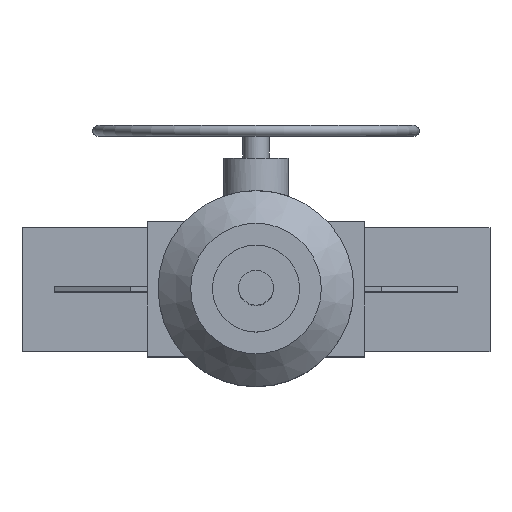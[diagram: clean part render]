
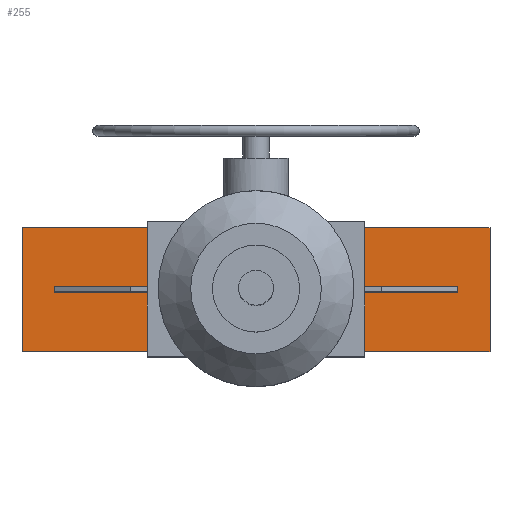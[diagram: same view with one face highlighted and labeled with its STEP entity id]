
A CAD part, top view. The second image highlights one B-rep face of the part: STEP entity #255.
In plain terms, the highlighted planar face has unit normal (0, 0, 1).
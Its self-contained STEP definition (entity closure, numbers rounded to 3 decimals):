
#255=ADVANCED_FACE('',(#1640,#1642),#1644,.T.);
#1640=FACE_BOUND('',#1641,.T.);
#1641=EDGE_LOOP('',(#2786,#2787,#2788,#2789,#2790,#2791,#2792,#2793));
#1642=FACE_BOUND('',#1643,.T.);
#1643=EDGE_LOOP('',(#2794,#2795,#2796,#2797));
#1644=PLANE('',#1645);
#1645=AXIS2_PLACEMENT_3D('',#1646,#1647,#1648);
#1646=CARTESIAN_POINT('',(0.,0.,375.));
#1647=DIRECTION('',(0.,0.,1.));
#1648=DIRECTION('',(1.,0.,0.));
#2786=ORIENTED_EDGE('',*,*,#3446,.F.);
#2787=ORIENTED_EDGE('',*,*,#3451,.T.);
#2788=ORIENTED_EDGE('',*,*,#3455,.T.);
#2789=ORIENTED_EDGE('',*,*,#3437,.T.);
#2790=ORIENTED_EDGE('',*,*,#3443,.F.);
#2791=ORIENTED_EDGE('',*,*,#3441,.T.);
#2792=ORIENTED_EDGE('',*,*,#3456,.T.);
#2793=ORIENTED_EDGE('',*,*,#3447,.T.);
#2794=ORIENTED_EDGE('',*,*,#3457,.F.);
#2795=ORIENTED_EDGE('',*,*,#3458,.F.);
#2796=ORIENTED_EDGE('',*,*,#3459,.F.);
#2797=ORIENTED_EDGE('',*,*,#3460,.F.);
#3437=EDGE_CURVE('',#3824,#3808,#3825,.T.);
#3441=EDGE_CURVE('',#3793,#3830,#3832,.T.);
#3443=EDGE_CURVE('',#3793,#3808,#3834,.T.);
#3446=EDGE_CURVE('',#3812,#3799,#3838,.T.);
#3447=EDGE_CURVE('',#3839,#3799,#3840,.T.);
#3451=EDGE_CURVE('',#3812,#3845,#3847,.T.);
#3455=EDGE_CURVE('',#3845,#3824,#3854,.T.);
#3456=EDGE_CURVE('',#3830,#3839,#3855,.T.);
#3457=EDGE_CURVE('',#3856,#3857,#3858,.T.);
#3458=EDGE_CURVE('',#3859,#3856,#3860,.F.);
#3459=EDGE_CURVE('',#3861,#3859,#3862,.T.);
#3460=EDGE_CURVE('',#3857,#3861,#3863,.T.);
#3793=VERTEX_POINT('',#4455);
#3799=VERTEX_POINT('',#4467);
#3808=VERTEX_POINT('',#4488);
#3812=VERTEX_POINT('',#4496);
#3824=VERTEX_POINT('',#4524);
#3825=LINE('',#4525,#4526);
#3830=VERTEX_POINT('',#4536);
#3832=LINE('',#4540,#4541);
#3834=LINE('',#4546,#4547);
#3838=LINE('',#4557,#4558);
#3839=VERTEX_POINT('',#4560);
#3840=LINE('',#4561,#4562);
#3845=VERTEX_POINT('',#4572);
#3847=LINE('',#4576,#4577);
#3854=LINE('',#4655,#4656);
#3855=LINE('',#4658,#4659);
#3856=VERTEX_POINT('',#4661);
#3857=VERTEX_POINT('',#4662);
#3858=LINE('',#4663,#4664);
#3859=VERTEX_POINT('',#4666);
#3860=LINE('',#4667,#4668);
#3861=VERTEX_POINT('',#4670);
#3862=LINE('',#4671,#4672);
#3863=LINE('',#4674,#4675);
#4455=CARTESIAN_POINT('',(-100.,57.,375.));
#4467=CARTESIAN_POINT('',(-100.,-57.,375.));
#4488=CARTESIAN_POINT('',(100.,57.,375.));
#4496=CARTESIAN_POINT('',(100.,-57.,375.));
#4524=CARTESIAN_POINT('',(215.,57.,375.));
#4525=CARTESIAN_POINT('',(215.,57.,375.));
#4526=VECTOR('',#4527,1.);
#4527=DIRECTION('',(-1.,0.,0.));
#4536=CARTESIAN_POINT('',(-215.,57.,375.));
#4540=CARTESIAN_POINT('',(-100.,57.,375.));
#4541=VECTOR('',#4542,1.);
#4542=DIRECTION('',(-1.,0.,0.));
#4546=CARTESIAN_POINT('',(-100.,57.,375.));
#4547=VECTOR('',#4548,1.);
#4548=DIRECTION('',(1.,0.,0.));
#4557=CARTESIAN_POINT('',(100.,-57.,375.));
#4558=VECTOR('',#4559,1.);
#4559=DIRECTION('',(-1.,0.,0.));
#4560=CARTESIAN_POINT('',(-215.,-57.,375.));
#4561=CARTESIAN_POINT('',(-215.,-57.,375.));
#4562=VECTOR('',#4563,1.);
#4563=DIRECTION('',(1.,0.,0.));
#4572=CARTESIAN_POINT('',(215.,-57.,375.));
#4576=CARTESIAN_POINT('',(100.,-57.,375.));
#4577=VECTOR('',#4578,1.);
#4578=DIRECTION('',(1.,0.,0.));
#4655=CARTESIAN_POINT('',(215.,-57.,375.));
#4656=VECTOR('',#4657,1.);
#4657=DIRECTION('',(0.,1.,0.));
#4658=CARTESIAN_POINT('',(-215.,57.,375.));
#4659=VECTOR('',#4660,1.);
#4660=DIRECTION('',(0.,-1.,0.));
#4661=CARTESIAN_POINT('',(-185.,2.5,375.));
#4662=CARTESIAN_POINT('',(-185.,-2.5,375.));
#4663=CARTESIAN_POINT('',(-185.,2.5,375.));
#4664=VECTOR('',#4665,1.);
#4665=DIRECTION('',(0.,-1.,0.));
#4666=CARTESIAN_POINT('',(185.,2.5,375.));
#4667=CARTESIAN_POINT('',(-185.,2.5,375.));
#4668=VECTOR('',#4669,1.);
#4669=DIRECTION('',(1.,0.,0.));
#4670=CARTESIAN_POINT('',(185.,-2.5,375.));
#4671=CARTESIAN_POINT('',(185.,-2.5,375.));
#4672=VECTOR('',#4673,1.);
#4673=DIRECTION('',(0.,1.,0.));
#4674=CARTESIAN_POINT('',(-185.,-2.5,375.));
#4675=VECTOR('',#4676,1.);
#4676=DIRECTION('',(1.,0.,0.));
